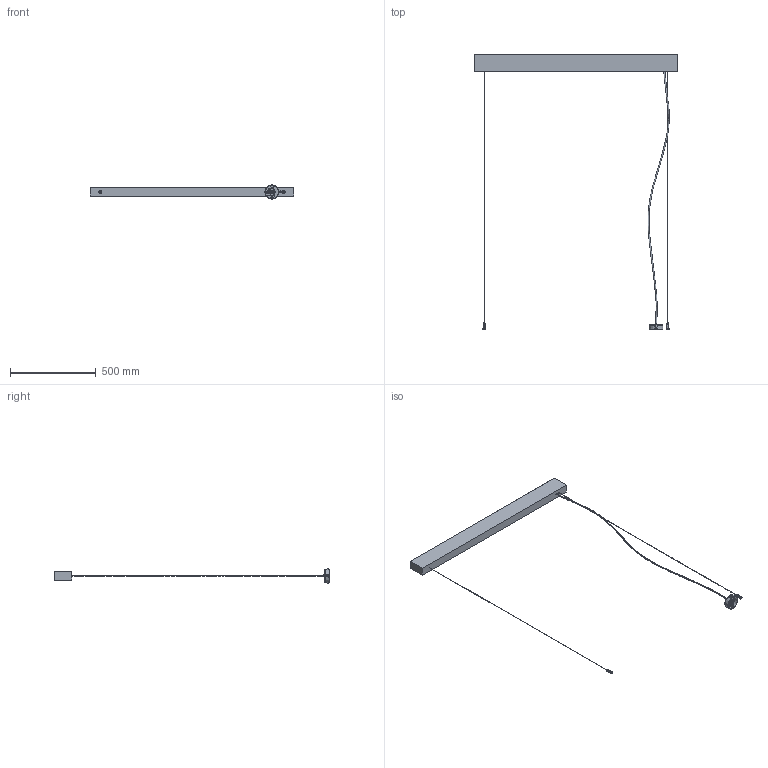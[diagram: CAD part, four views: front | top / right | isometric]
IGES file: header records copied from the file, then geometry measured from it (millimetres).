
Start section: SolidWorks IGES file using analytic representation for surfaces
Global section: file name: E:\3D lampy\Stone\Stone mosaic\Stone mosaic_7012,7013.IGS; native system: SolidWorks 2016; preprocessor: SolidWorks 2016; author: Asia; date: 161028.103639; units: millimetre
Bounding box: 1190 x 1602.63 x 83.45 mm (x, y, z)
Surface area: 896077.1 mm2 (no closed solid volume)
Topology: 0 solids, 0 shells, 2650 faces, 26782 edges, 26765 vertices
Faces by surface type: bspline 1960, revolution 690
